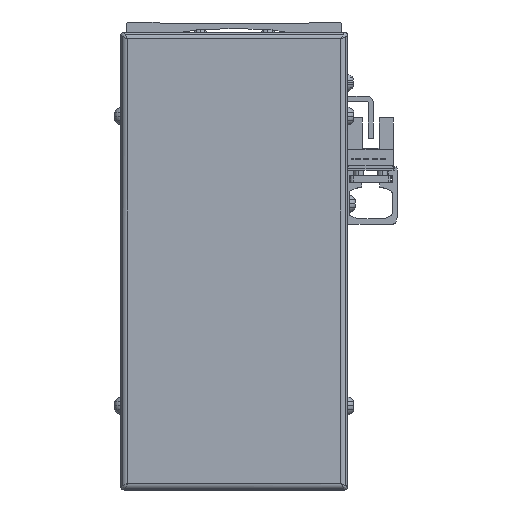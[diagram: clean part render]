
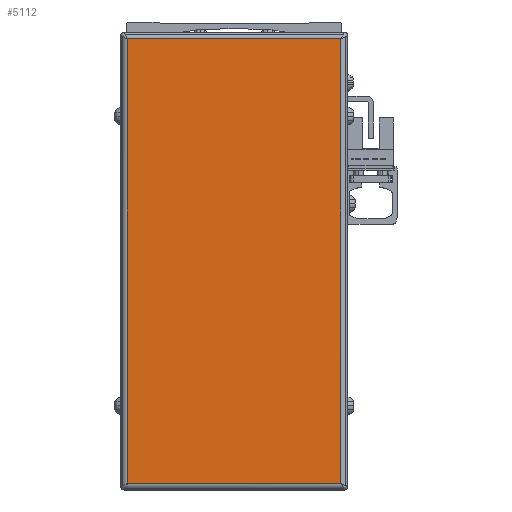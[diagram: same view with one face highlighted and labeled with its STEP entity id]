
A CAD part, front view. The second image highlights one B-rep face of the part: STEP entity #5112.
In plain terms, the highlighted planar face has unit normal (0, -1, 0).
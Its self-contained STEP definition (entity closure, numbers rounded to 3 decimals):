
#5112=ADVANCED_FACE('',(#11119),#11120,.T.);
#11119=FACE_OUTER_BOUND('',#18981,.T.);
#11120=PLANE('',#18982);
#18981=EDGE_LOOP('',(#33491,#33492,#33493,#33494));
#18982=AXIS2_PLACEMENT_3D('',#33495,#33496,#33497);
#33491=ORIENTED_EDGE('',*,*,#46607,.F.);
#33492=ORIENTED_EDGE('',*,*,#47272,.F.);
#33493=ORIENTED_EDGE('',*,*,#49106,.F.);
#33494=ORIENTED_EDGE('',*,*,#46432,.F.);
#33495=CARTESIAN_POINT('',(300.,81.,-44.));
#33496=DIRECTION('',(0.,-1.0,0.));
#33497=DIRECTION('',(0.,0.,1.0));
#46432=EDGE_CURVE('',#55371,#56698,#56699,.T.);
#46607=EDGE_CURVE('',#56974,#55371,#56976,.T.);
#47272=EDGE_CURVE('',#57730,#56974,#57994,.T.);
#49106=EDGE_CURVE('',#56698,#57730,#60596,.T.);
#55371=VERTEX_POINT('',#68727);
#56698=VERTEX_POINT('',#70631);
#56699=LINE('',#70632,#70633);
#56974=VERTEX_POINT('',#71028);
#56976=LINE('',#71030,#71031);
#57730=VERTEX_POINT('',#72150);
#57994=LINE('',#72516,#72517);
#60596=LINE('',#76279,#76280);
#68727=CARTESIAN_POINT('',(331.7,81.,22.));
#70631=CARTESIAN_POINT('',(331.7,81.,-110.));
#70632=CARTESIAN_POINT('',(331.7,81.,-44.));
#70633=VECTOR('',#84080,10.0);
#71028=CARTESIAN_POINT('',(268.3,81.,22.));
#71030=CARTESIAN_POINT('',(300.,81.,22.));
#71031=VECTOR('',#84275,10.0);
#72150=CARTESIAN_POINT('',(268.3,81.,-110.));
#72516=CARTESIAN_POINT('',(268.3,81.,-44.));
#72517=VECTOR('',#85037,10.0);
#76279=CARTESIAN_POINT('',(300.,81.,-110.));
#76280=VECTOR('',#87106,10.0);
#84080=DIRECTION('',(0.,0.,-1.0));
#84275=DIRECTION('',(1.0,0.,0.));
#85037=DIRECTION('',(0.,0.,1.0));
#87106=DIRECTION('',(-1.0,0.,0.));
